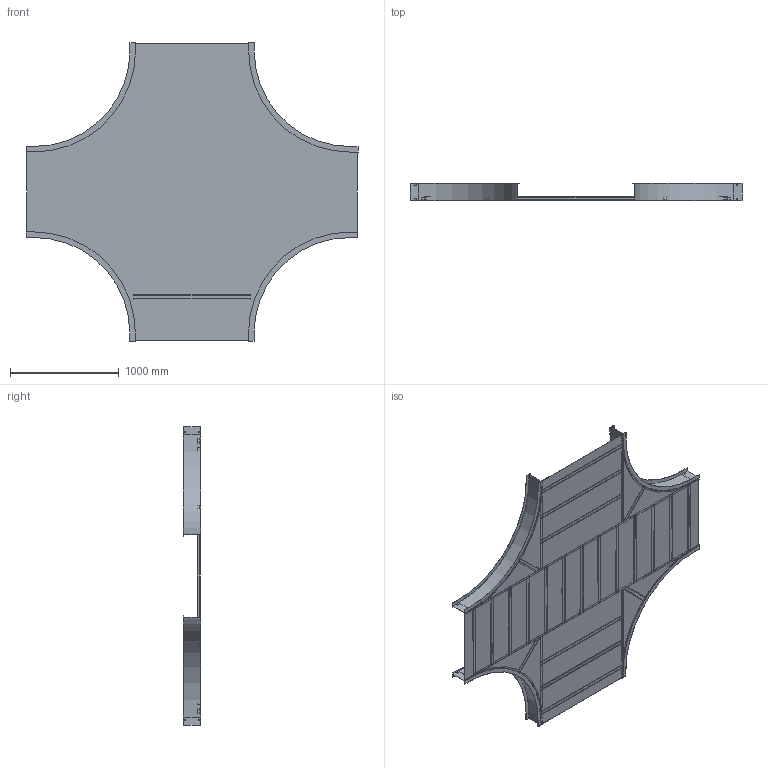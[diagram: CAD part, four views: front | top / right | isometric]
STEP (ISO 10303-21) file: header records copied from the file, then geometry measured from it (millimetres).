
FILE_DESCRIPTION((''),'2;1');
FILE_NAME('AHF63042SEX36_ASM','2010-02-01T',('erouzier'),(''),'PRO/ENGINEER BY PARAMETRIC TECHNOLOGY CORPORATION, 2008510','PRO/ENGINEER BY PARAMETRIC TECHNOLOGY CORPORATION, 2008510','');
FILE_SCHEMA(('CONFIG_CONTROL_DESIGN'));
Length unit declared in the file: inch
Products named in the file (27): CDS001812-6-90-36-I; CDS002159L30_AF13; CDS002159L30_AF14; CDS002159L30_AF15; CDS002159L30_AF16; CDS002159L30_AF22; CDS002159L30_AF24; CDS002159L30_AF17; CDS002159L30_AF18; CDS002159L30_AF19; CDS002159L30_AF21; CDS002159L30_AF23; CDS002159L30_AF25; CDS002159L30_AF20; CDS000495_GEN_AF18; CDS000495_GEN_AF19; CDS000495_GEN_AF22; CDS000495_GEN_AF23; CDS000495_GEN_AF20; CDS000495_GEN_AF21; CDS002159L18_AF6; CDS002159L18_AF7; CDS002159L18_AF4; CDS002159L18_AF5; CDS002159L42; CDS014308-30-36-42; AHF63042SEX36_ASM
Assembly tree (34 placements, depth 2):
  AHF63042SEX36_ASM
    CDS001812-6-90-36-I  x4
    CDS002159L30_AF13
    CDS002159L30_AF14
    CDS002159L30_AF15
    CDS002159L30_AF16
    CDS002159L30_AF22
    CDS002159L30_AF24
    CDS002159L30_AF17
    CDS002159L30_AF18
    CDS002159L30_AF19
    CDS002159L30_AF21
    CDS002159L30_AF23
    CDS002159L30_AF25
    CDS002159L30_AF20
    CDS000495_GEN_AF18
    CDS000495_GEN_AF19
    CDS000495_GEN_AF22
    CDS000495_GEN_AF23
    CDS000495_GEN_AF20
    CDS000495_GEN_AF21
    CDS002159L18_AF6
    CDS002159L18_AF7
    CDS002159L18_AF4
    CDS002159L18_AF5
    CDS002159L42  x6
    CDS014308-30-36-42
Bounding box: 3053.08 x 157.99 x 2748.28 mm (x, y, z)
Volume: 13242322.4 mm3; surface area: 18938966.9 mm2
Topology: 34 solids, 34 shells, 936 faces, 2604 edges, 1736 vertices
Faces by surface type: plane 655, cylinder 281
Entity records: 21930 total; most frequent: CARTESIAN_POINT 4105, ORIENTED_EDGE 3648, DIRECTION 3594, EDGE_CURVE 1824, VECTOR 1408, LINE 1408, VERTEX_POINT 1216, AXIS2_PLACEMENT_3D 1093
